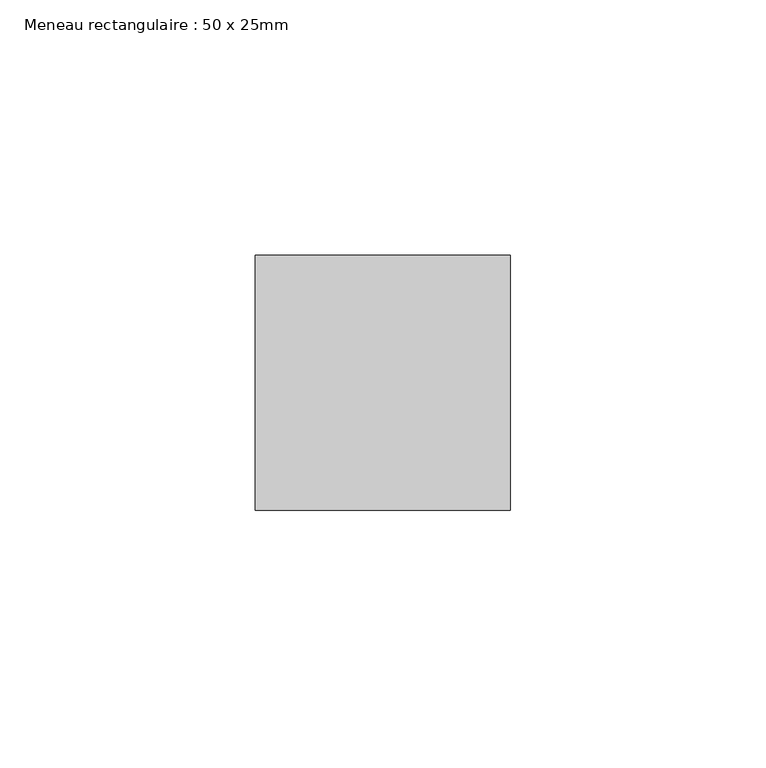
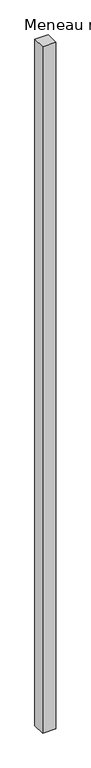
"""IFC4 building model written with IfcOpenShell, lengths in millimetres: member geometry, Meneau rectangulaire : 50 x 25mm."""

from ifc_helpers import new_model, si_unit, frame, origin, place, context, project, spatial, polyline, outline, extrude, source, transform, mapped, element, save


def meneau_rectangulaire_50_x_25mm_cecea45b(model_context):
    return source(origin(), model_context, "Body", "SweptSolid", [
        extrude(outline(polyline([(0.0, 0.0), (0.0, -50.0), (-50.0, -50.0), (-50.0, 0.0), (0.0, 0.0)])), frame((0.0, 0.0, -2744.4615249), z_axis=(0.0, 0.0, 1.0), x_axis=(1.0, 0.0, 0.0)), (0.0, 0.0, 1.0), 2744.4615249),
    ])


if __name__ == "__main__":
    model = new_model("IFC4")
    model_context = context("Model", 3, world=origin())
    ifc_project = project(units=[si_unit("LENGTHUNIT", "METRE", prefix="MILLI")], contexts=[model_context])
    site = spatial("IfcSite", under=ifc_project)
    building = spatial("IfcBuilding", under=site)
    placement = place(None, origin())
    meneau_rectangulaire_50_x_25mm_shape = meneau_rectangulaire_50_x_25mm_cecea45b(model_context)
    element("IfcMember", 1, ObjectType="Meneau rectangulaire : 50 x 25mm", at=placement, inside=building, context=model_context, shape_type="MappedRepresentation", body=[
        mapped(meneau_rectangulaire_50_x_25mm_shape, transform((0.0, 0.0, 0.0), x_axis=(1.0, 0.0, 0.0), y_axis=(0.0, 1.0, 0.0), z_axis=(0.0, 0.0, 1.0))),
    ])
    save(model, "model.ifc")
